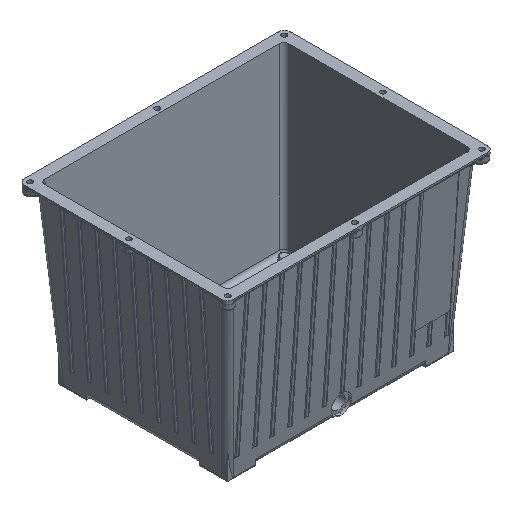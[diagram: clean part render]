
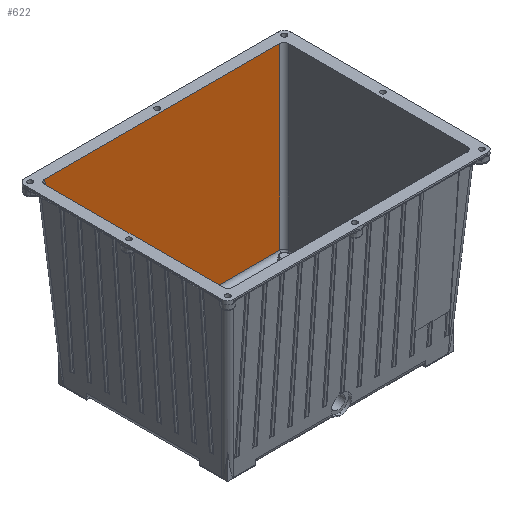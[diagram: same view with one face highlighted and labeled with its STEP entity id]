
A CAD part, isometric view. The second image highlights one B-rep face of the part: STEP entity #622.
In plain terms, the highlighted planar face has unit normal (0, -0.998, 0.07).
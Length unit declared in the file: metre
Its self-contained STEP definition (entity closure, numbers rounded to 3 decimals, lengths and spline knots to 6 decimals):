
#622 = ADVANCED_FACE( '', ( #1969 ), #1970, .F. );
#1969 = FACE_OUTER_BOUND( '', #13930, .T. );
#1970 = PLANE( '', #13931 );
#13930 = EDGE_LOOP( '', ( #18951, #18952, #18953, #18954 ) );
#13931 = AXIS2_PLACEMENT_3D( '', #18955, #18956, #18957 );
#18951 = ORIENTED_EDGE( '', *, *, #20693, .T. );
#18952 = ORIENTED_EDGE( '', *, *, #21967, .T. );
#18953 = ORIENTED_EDGE( '', *, *, #21968, .T. );
#18954 = ORIENTED_EDGE( '', *, *, #21894, .T. );
#18955 = CARTESIAN_POINT( '', ( 0., 0.129, 0. ) );
#18956 = DIRECTION( '', ( 0., 0.998, -0.07 ) );
#18957 = DIRECTION( '', ( 0., 0.07, 0.998 ) );
#20693 = EDGE_CURVE( '', #22845, #22843, #22846, .F. );
#21894 = EDGE_CURVE( '', #24805, #22845, #24806, .T. );
#21967 = EDGE_CURVE( '', #22843, #23875, #24909, .F. );
#21968 = EDGE_CURVE( '', #23875, #24805, #24910, .T. );
#22843 = VERTEX_POINT( '', #27617 );
#22845 = VERTEX_POINT( '', #27619 );
#22846 = LINE( '', #27620, #27621 );
#23875 = VERTEX_POINT( '', #32375 );
#24805 = VERTEX_POINT( '', #36047 );
#24806 = LINE( '', #36048, #36049 );
#24909 = LINE( '', #36308, #36309 );
#24910 = LINE( '', #36310, #36311 );
#27617 = CARTESIAN_POINT( '', ( -0.145902, 0.112888, -0.230419 ) );
#27619 = CARTESIAN_POINT( '', ( -0.162015, 0.129, 0. ) );
#27620 = CARTESIAN_POINT( '', ( -0.145541, 0.112526, -0.235586 ) );
#27621 = VECTOR( '', #37467, 1. );
#32375 = CARTESIAN_POINT( '', ( 0.145902, 0.112888, -0.230419 ) );
#36047 = CARTESIAN_POINT( '', ( 0.162015, 0.129, 0. ) );
#36048 = CARTESIAN_POINT( '', ( 0., 0.129, 0. ) );
#36049 = VECTOR( '', #39046, 1. );
#36308 = CARTESIAN_POINT( '', ( 0.145512, 0.112888, -0.230419 ) );
#36309 = VECTOR( '', #39147, 1. );
#36310 = CARTESIAN_POINT( '', ( 0.162044, 0.129029, 0.000414 ) );
#36311 = VECTOR( '', #39148, 1. );
#37467 = DIRECTION( '', ( -0.07, 0.07, 0.995 ) );
#39046 = DIRECTION( '', ( -1., 0., 0. ) );
#39147 = DIRECTION( '', ( -1., 0., 0. ) );
#39148 = DIRECTION( '', ( 0.07, 0.07, 0.995 ) );
